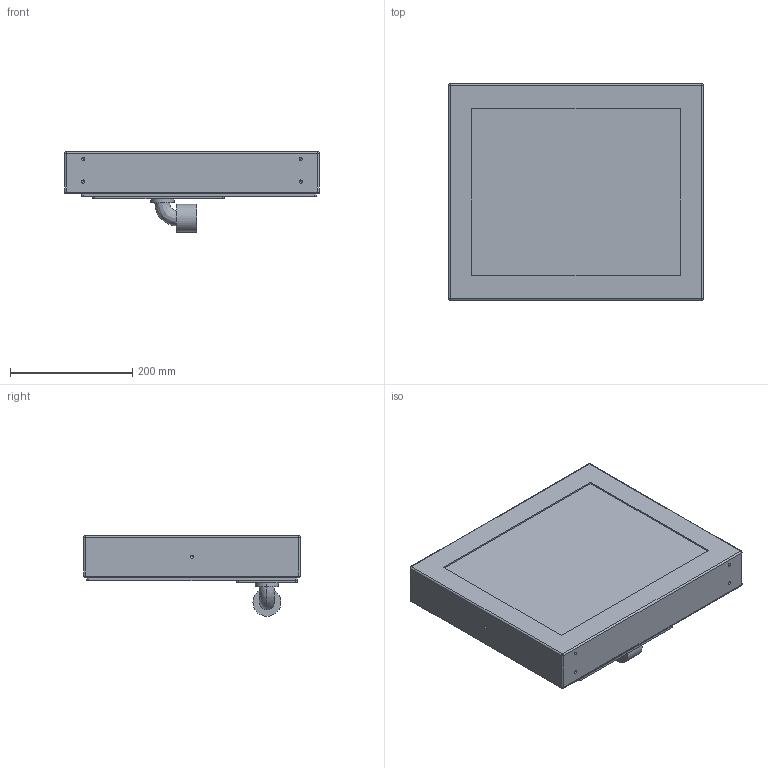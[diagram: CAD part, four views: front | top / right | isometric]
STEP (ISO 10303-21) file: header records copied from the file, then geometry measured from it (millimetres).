
FILE_DESCRIPTION (( 'STEP AP214' ), '1' );
FILE_NAME ('17 inch Universal Mount Monitor, HIS-UM17-xxxH, with KVM2EXT and CP-CON.STEP', '2019-11-18T20:49:11', ( '' ), ( '' ), 'SwSTEP 2.0', 'SolidWorks 2017', '' );
FILE_SCHEMA (( 'AUTOMOTIVE_DESIGN' ));
Length unit declared in the file: inch
Products named in the file (1): 17 inch Universal Mount Monitor, HIS-UM17-xxxH, with KVM2EXT and CP-CON
Bounding box: 416.56 x 354.08 x 131.78 mm (x, y, z)
Volume: 10670982.4 mm3; surface area: 423059.4 mm2
Topology: 1 solids, 1 shells, 103 faces, 246 edges, 134 vertices
Faces by surface type: cylinder 44, plane 29, cone 20, sphere 8, bspline 2
Entity records: 3657 total; most frequent: CARTESIAN_POINT 516, DIRECTION 512, ORIENTED_EDGE 436, EDGE_CURVE 218, AXIS2_PLACEMENT_3D 194, VERTEX_POINT 134, LINE 124, VECTOR 124
